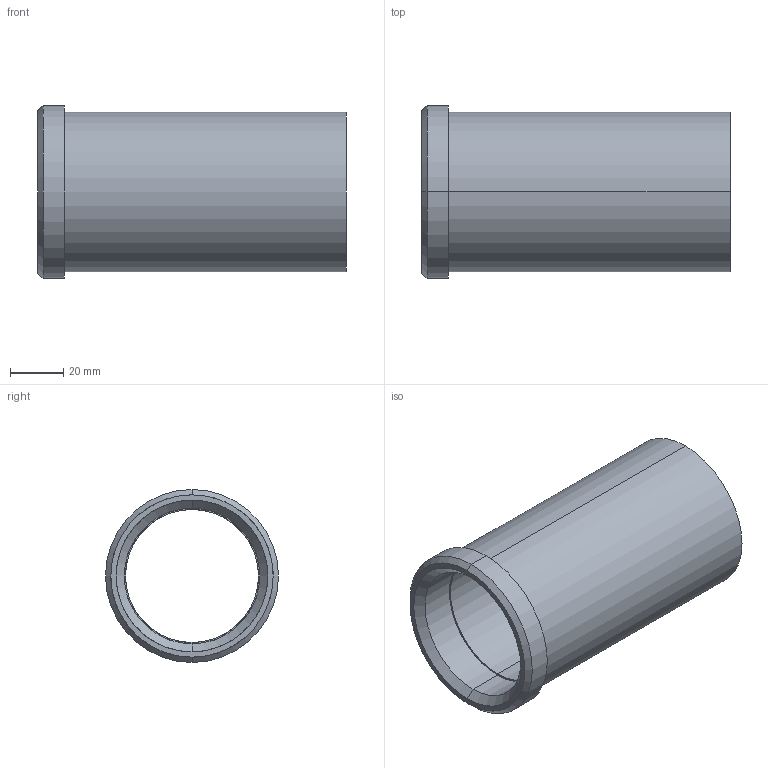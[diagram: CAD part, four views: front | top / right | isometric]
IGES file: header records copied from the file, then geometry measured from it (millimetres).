
Start section: START RECORD GO HERE.
Global section: file name: 353-50X116.igs; native system: DASSAULT SYSTEMES CATIA V5 R20 - www.3ds.com; preprocessor: CATIA Version 5 Release 20 ; author: Utente; organization: NB04-ASUS; date: 20210514.152109; units: millimetre
Bounding box: 116 x 65 x 65 mm (x, y, z)
Surface area: 42356.3 mm2 (no closed solid volume)
Topology: 0 solids, 0 shells, 18 faces, 116 edges, 116 vertices
Faces by surface type: revolution 14, plane 4
